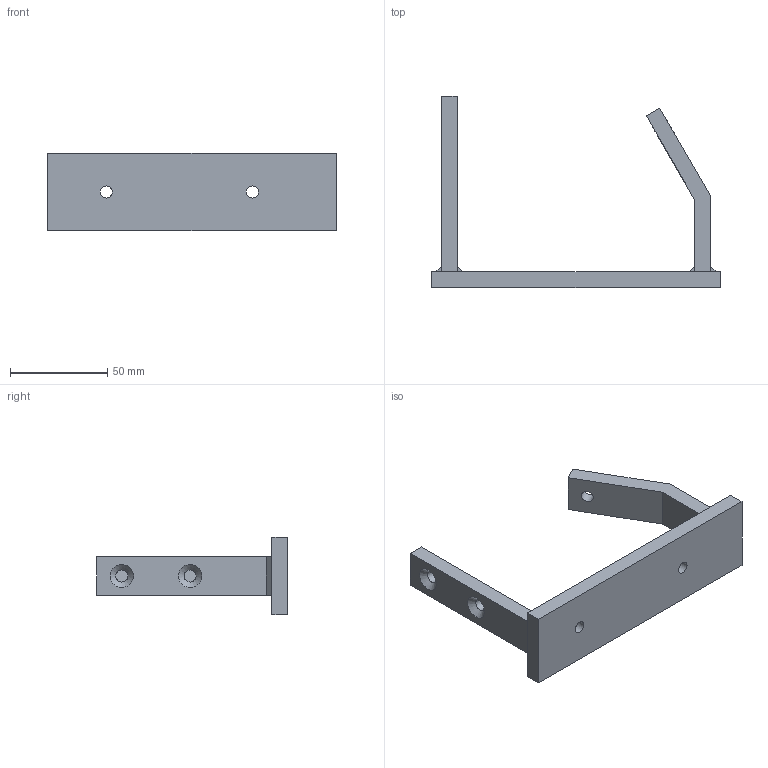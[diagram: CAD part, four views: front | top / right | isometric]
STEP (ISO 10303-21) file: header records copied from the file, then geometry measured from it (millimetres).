
FILE_DESCRIPTION(/* description */ (''),/* implementation_level */ '2;1');
FILE_NAME(/* name */ 'C:\Users\Apardo\Documents\Proyectos\Dietrich\Proyecto 1\PLATE ROLLING MACHINE\STEP\3 position.stp',/* time_stamp */ '2020-11-03T20:45:32-04:00',/* author */ ('Apardo'),/* organization */ ('24'),/* preprocessor_version */ 'ST-DEVELOPER v18',/* originating_system */ 'Autodesk Inventor 2020',/* authorisation */ '');
FILE_SCHEMA (('AUTOMOTIVE_DESIGN { 1 0 10303 214 3 1 1 }'));
Length unit declared in the file: millimetre
Products named in the file (5): position; position_1; position 1A; position 1B; position 1C
Assembly tree (4 placements, depth 2):
  position
    position_1
    position 1A
    position 1B
    position 1C
Bounding box: 148 x 98 x 40 mm (x, y, z)
Volume: 74872.2 mm3; surface area: 26775.3 mm2
Topology: 7 solids, 7 shells, 48 faces, 107 edges, 73 vertices
Faces by surface type: plane 40, cylinder 5, cone 3
Full cylindrical faces by diameter (mm): 6.2 x5
Entity records: 1557 total; most frequent: DIRECTION 242, CARTESIAN_POINT 237, ORIENTED_EDGE 214, EDGE_CURVE 107, LINE 86, VECTOR 86, AXIS2_PLACEMENT_3D 78, VERTEX_POINT 73
